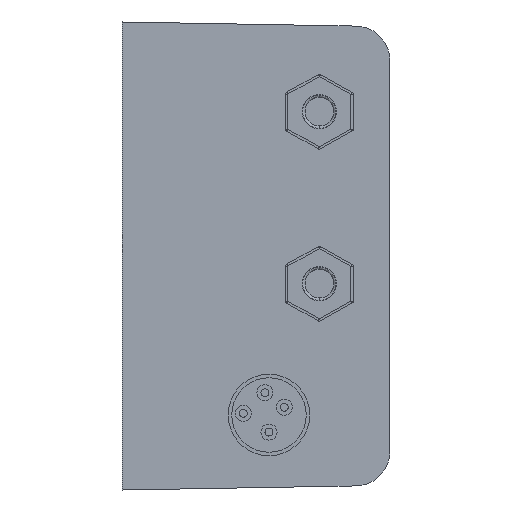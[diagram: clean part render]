
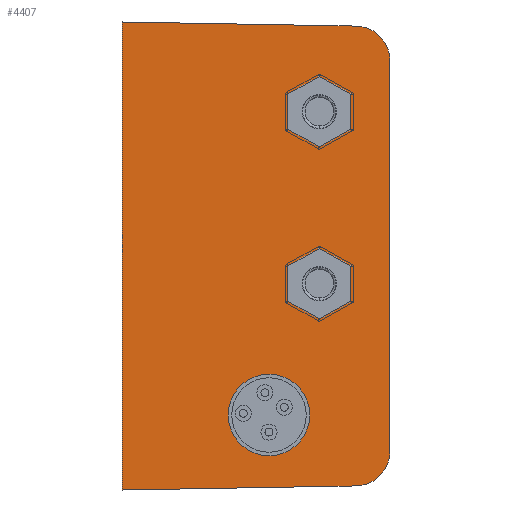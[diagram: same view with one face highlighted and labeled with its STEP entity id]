
A CAD part, left-side view. The second image highlights one B-rep face of the part: STEP entity #4407.
In plain terms, the highlighted planar face has unit normal (-1, 0, 0).
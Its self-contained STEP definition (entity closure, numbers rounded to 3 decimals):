
#161 = ORIENTED_EDGE ( 'NONE', *, *, #3234, .F. ) ;
#168 = AXIS2_PLACEMENT_3D ( 'NONE', #4340, #182, #3941 ) ;
#182 = DIRECTION ( 'NONE',  ( -1., 0., 0. ) ) ;
#205 = FACE_OUTER_BOUND ( 'NONE', #3841, .T. ) ;
#299 = ORIENTED_EDGE ( 'NONE', *, *, #2535, .T. ) ;
#347 = LINE ( 'NONE', #1170, #3742 ) ;
#373 = CARTESIAN_POINT ( 'NONE',  ( -101.969, 6.15, -2.102 ) ) ;
#439 = CARTESIAN_POINT ( 'NONE',  ( -101.969, 23.35, -20.097 ) ) ;
#495 = CARTESIAN_POINT ( 'NONE',  ( -101.969, 6.15, 14.398 ) ) ;
#505 = LINE ( 'NONE', #4620, #539 ) ;
#539 = VECTOR ( 'NONE', #2127, 1000. ) ;
#547 = CARTESIAN_POINT ( 'NONE',  ( -101.969, 0., 17.363 ) ) ;
#588 = EDGE_CURVE ( 'NONE', #4388, #2575, #1824, .T. ) ;
#671 = DIRECTION ( 'NONE',  ( -1., 0., 0. ) ) ;
#723 = CARTESIAN_POINT ( 'NONE',  ( -101.969, 23.35, -19.689 ) ) ;
#724 = DIRECTION ( 'NONE',  ( -1., 0., 0. ) ) ;
#850 = EDGE_LOOP ( 'NONE', ( #161, #2549 ) ) ;
#1060 = AXIS2_PLACEMENT_3D ( 'NONE', #2926, #1336, #4564 ) ;
#1170 = CARTESIAN_POINT ( 'NONE',  ( -101.969, 0., -19.689 ) ) ;
#1275 = ORIENTED_EDGE ( 'NONE', *, *, #588, .T. ) ;
#1311 = ORIENTED_EDGE ( 'NONE', *, *, #2840, .T. ) ;
#1336 = DIRECTION ( 'NONE',  ( -1., 0., 0. ) ) ;
#1362 = CARTESIAN_POINT ( 'NONE',  ( -101.969, 6.15, 12.898 ) ) ;
#1430 = CIRCLE ( 'NONE', #2554, 1.5 ) ;
#1460 = FACE_BOUND ( 'NONE', #850, .T. ) ;
#1539 = VERTEX_POINT ( 'NONE', #4575 ) ;
#1724 = CARTESIAN_POINT ( 'NONE',  ( -101.969, 23.35, -19.689 ) ) ;
#1795 = CIRCLE ( 'NONE', #168, 1.5 ) ;
#1824 = CIRCLE ( 'NONE', #5170, 3. ) ;
#1834 = DIRECTION ( 'NONE',  ( 0., 0., -1. ) ) ;
#1855 = CIRCLE ( 'NONE', #4856, 1.5 ) ;
#2036 = EDGE_CURVE ( 'NONE', #2317, #2864, #3419, .T. ) ;
#2041 = CIRCLE ( 'NONE', #3075, 1.5 ) ;
#2089 = EDGE_CURVE ( 'NONE', #2317, #2631, #505, .T. ) ;
#2127 = DIRECTION ( 'NONE',  ( 0., -1., 0.017 ) ) ;
#2154 = DIRECTION ( 'NONE',  ( 0., -1., -0.017 ) ) ;
#2221 = CARTESIAN_POINT ( 'NONE',  ( -101.969, 0., 20.311 ) ) ;
#2253 = AXIS2_PLACEMENT_3D ( 'NONE', #723, #3968, #3940 ) ;
#2317 = VERTEX_POINT ( 'NONE', #439 ) ;
#2510 = CARTESIAN_POINT ( 'NONE',  ( -101.969, 23.35, 20.718 ) ) ;
#2535 = EDGE_CURVE ( 'NONE', #2631, #3224, #3387, .T. ) ;
#2549 = ORIENTED_EDGE ( 'NONE', *, *, #3435, .F. ) ;
#2554 = AXIS2_PLACEMENT_3D ( 'NONE', #373, #724, #3969 ) ;
#2575 = VERTEX_POINT ( 'NONE', #3361 ) ;
#2589 = LINE ( 'NONE', #2221, #2637 ) ;
#2631 = VERTEX_POINT ( 'NONE', #5200 ) ;
#2637 = VECTOR ( 'NONE', #2154, 1000. ) ;
#2840 = EDGE_CURVE ( 'NONE', #3224, #4388, #347, .T. ) ;
#2864 = VERTEX_POINT ( 'NONE', #2510 ) ;
#2889 = DIRECTION ( 'NONE',  ( 0., 0., 1. ) ) ;
#2926 = CARTESIAN_POINT ( 'NONE',  ( -101.969, 3., -16.741 ) ) ;
#2951 = CARTESIAN_POINT ( 'NONE',  ( -101.969, 0., -16.741 ) ) ;
#3075 = AXIS2_PLACEMENT_3D ( 'NONE', #1362, #5021, #4136 ) ;
#3224 = VERTEX_POINT ( 'NONE', #2951 ) ;
#3234 = EDGE_CURVE ( 'NONE', #3281, #3854, #2041, .T. ) ;
#3281 = VERTEX_POINT ( 'NONE', #495 ) ;
#3361 = CARTESIAN_POINT ( 'NONE',  ( -101.969, 2.948, 20.362 ) ) ;
#3387 = CIRCLE ( 'NONE', #1060, 3. ) ;
#3419 = LINE ( 'NONE', #1724, #4464 ) ;
#3435 = EDGE_CURVE ( 'NONE', #3854, #3281, #1795, .T. ) ;
#3454 = CARTESIAN_POINT ( 'NONE',  ( -101.969, 3., 17.363 ) ) ;
#3515 = FACE_BOUND ( 'NONE', #4841, .T. ) ;
#3588 = EDGE_CURVE ( 'NONE', #1539, #5280, #1430, .T. ) ;
#3690 = EDGE_CURVE ( 'NONE', #5280, #1539, #1855, .T. ) ;
#3724 = DIRECTION ( 'NONE',  ( -1., 0., 0. ) ) ;
#3742 = VECTOR ( 'NONE', #4956, 1000. ) ;
#3841 = EDGE_LOOP ( 'NONE', ( #3945, #299, #1311, #1275, #4752, #4238 ) ) ;
#3854 = VERTEX_POINT ( 'NONE', #4311 ) ;
#3913 = PLANE ( 'NONE',  #2253 ) ;
#3940 = DIRECTION ( 'NONE',  ( 0., 0., -1. ) ) ;
#3941 = DIRECTION ( 'NONE',  ( 0., 0., 1. ) ) ;
#3945 = ORIENTED_EDGE ( 'NONE', *, *, #2089, .T. ) ;
#3968 = DIRECTION ( 'NONE',  ( 1., 0., 0. ) ) ;
#3969 = DIRECTION ( 'NONE',  ( 0., 0., 1. ) ) ;
#4101 = CARTESIAN_POINT ( 'NONE',  ( -101.969, 6.15, -2.102 ) ) ;
#4136 = DIRECTION ( 'NONE',  ( 0., 0., 1. ) ) ;
#4199 = CARTESIAN_POINT ( 'NONE',  ( -101.969, 6.15, -0.602 ) ) ;
#4238 = ORIENTED_EDGE ( 'NONE', *, *, #2036, .F. ) ;
#4311 = CARTESIAN_POINT ( 'NONE',  ( -101.969, 6.15, 11.398 ) ) ;
#4333 = ORIENTED_EDGE ( 'NONE', *, *, #3690, .F. ) ;
#4340 = CARTESIAN_POINT ( 'NONE',  ( -101.969, 6.15, 12.898 ) ) ;
#4388 = VERTEX_POINT ( 'NONE', #547 ) ;
#4407 = ADVANCED_FACE ( 'NONE', ( #3515, #1460, #205 ), #3913, .F. ) ;
#4464 = VECTOR ( 'NONE', #5055, 1000. ) ;
#4564 = DIRECTION ( 'NONE',  ( 0., 0., -1. ) ) ;
#4575 = CARTESIAN_POINT ( 'NONE',  ( -101.969, 6.15, -3.602 ) ) ;
#4620 = CARTESIAN_POINT ( 'NONE',  ( -101.969, 23.343, -20.097 ) ) ;
#4752 = ORIENTED_EDGE ( 'NONE', *, *, #5263, .F. ) ;
#4793 = ORIENTED_EDGE ( 'NONE', *, *, #3588, .F. ) ;
#4841 = EDGE_LOOP ( 'NONE', ( #4333, #4793 ) ) ;
#4856 = AXIS2_PLACEMENT_3D ( 'NONE', #4101, #3724, #2889 ) ;
#4956 = DIRECTION ( 'NONE',  ( 0., 0., 1. ) ) ;
#5021 = DIRECTION ( 'NONE',  ( -1., 0., 0. ) ) ;
#5055 = DIRECTION ( 'NONE',  ( 0., 0., 1. ) ) ;
#5170 = AXIS2_PLACEMENT_3D ( 'NONE', #3454, #671, #1834 ) ;
#5200 = CARTESIAN_POINT ( 'NONE',  ( -101.969, 2.948, -19.741 ) ) ;
#5263 = EDGE_CURVE ( 'NONE', #2864, #2575, #2589, .T. ) ;
#5280 = VERTEX_POINT ( 'NONE', #4199 ) ;
